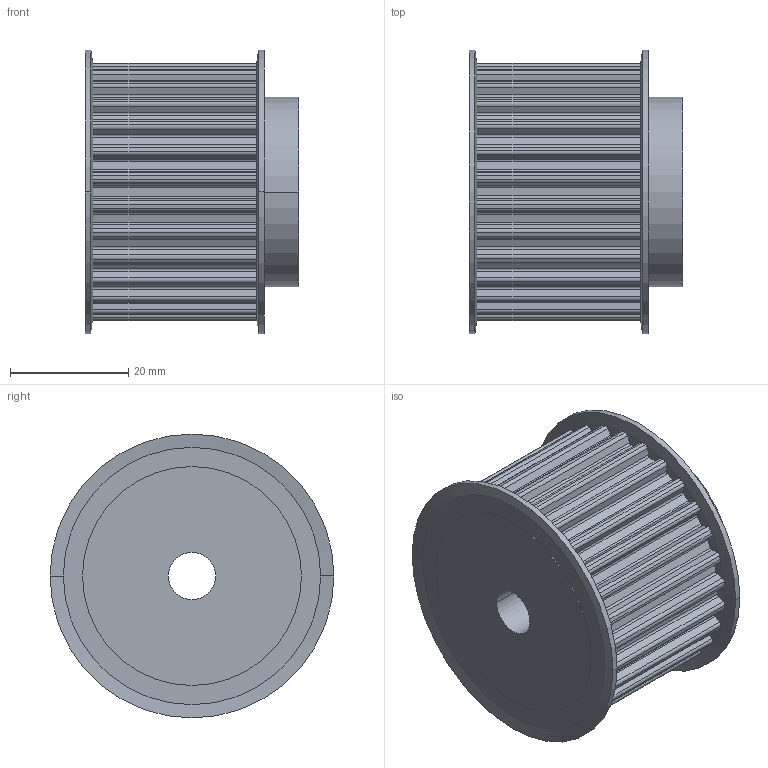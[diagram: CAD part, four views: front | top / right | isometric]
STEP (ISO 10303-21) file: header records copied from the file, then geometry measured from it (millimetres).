
FILE_DESCRIPTION( ( '' ), '1' );
FILE_NAME( 'C:/Users/Stangenbergd/Documents/CAD_Step/1/16242800.stp', '2021-10-19T08:46:06', ( '' ), ( '' ), ' ', ' ', ' ' );
FILE_SCHEMA( ( 'CONFIG_CONTROL_DESIGN' ) );
Length unit declared in the file: millimetre
Products named in the file (1): 1
Bounding box: 36.17 x 48 x 48 mm (x, y, z)
Volume: 44538.6 mm3; surface area: 11826.3 mm2
Topology: 1 solids, 1 shells, 361 faces, 948 edges, 592 vertices
Faces by surface type: plane 201, cylinder 152, cone 8
Entity records: 11306 total; most frequent: DIRECTION 2208, CARTESIAN_POINT 1902, ORIENTED_EDGE 1896, EDGE_CURVE 948, AXIS2_PLACEMENT_3D 898, VERTEX_POINT 592, CIRCLE 536, LINE 412
